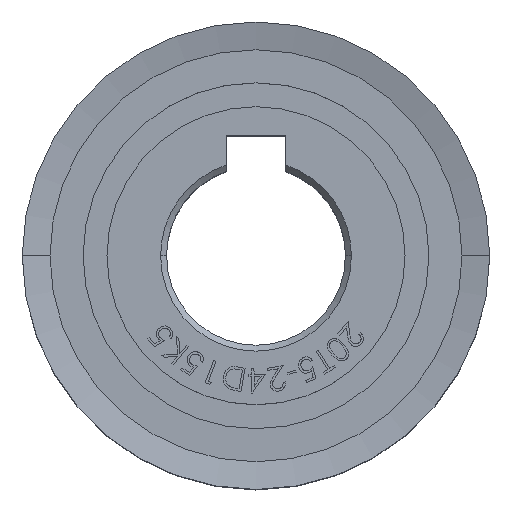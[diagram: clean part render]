
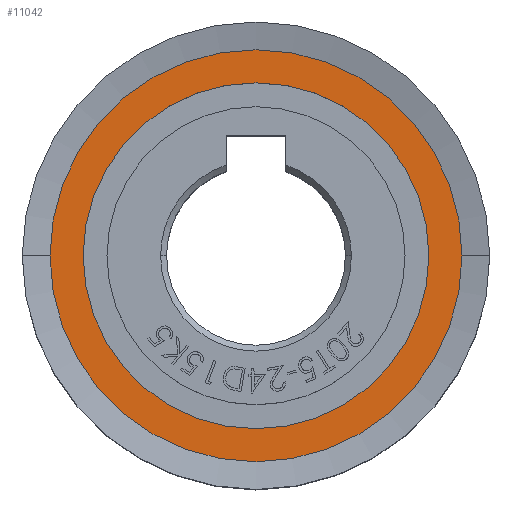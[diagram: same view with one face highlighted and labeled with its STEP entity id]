
A CAD part, top view. The second image highlights one B-rep face of the part: STEP entity #11042.
In plain terms, the highlighted planar face has unit normal (0, 0, 1).
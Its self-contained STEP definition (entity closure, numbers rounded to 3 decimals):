
#318 = EDGE_LOOP ( 'NONE', ( #5615, #4471 ) ) ;
#814 = DIRECTION ( 'NONE',  ( 1., 0., 0. ) ) ;
#1051 = CARTESIAN_POINT ( 'NONE',  ( 0., 0., -0.5 ) ) ;
#1483 = FACE_BOUND ( 'NONE', #318, .T. ) ;
#1940 = AXIS2_PLACEMENT_3D ( 'NONE', #10454, #2650, #12104 ) ;
#1995 = DIRECTION ( 'NONE',  ( 1., 0., 0. ) ) ;
#2495 = VERTEX_POINT ( 'NONE', #22950 ) ;
#2566 = DIRECTION ( 'NONE',  ( 0., 0., 1. ) ) ;
#2650 = DIRECTION ( 'NONE',  ( 0., 0., 1. ) ) ;
#3549 = CIRCLE ( 'NONE', #12532, 17.274 ) ;
#3607 = EDGE_LOOP ( 'NONE', ( #4931, #14555 ) ) ;
#3690 = VERTEX_POINT ( 'NONE', #4474 ) ;
#4088 = DIRECTION ( 'NONE',  ( 1., 0., 0. ) ) ;
#4321 = CIRCLE ( 'NONE', #20397, 17.274 ) ;
#4471 = ORIENTED_EDGE ( 'NONE', *, *, #10715, .F. ) ;
#4474 = CARTESIAN_POINT ( 'NONE',  ( -17.274, 0., -0.5 ) ) ;
#4931 = ORIENTED_EDGE ( 'NONE', *, *, #11479, .T. ) ;
#5613 = CARTESIAN_POINT ( 'NONE',  ( 0., 0., -0.5 ) ) ;
#5615 = ORIENTED_EDGE ( 'NONE', *, *, #5676, .F. ) ;
#5676 = EDGE_CURVE ( 'NONE', #2495, #17843, #10540, .T. ) ;
#5845 = CARTESIAN_POINT ( 'NONE',  ( 17.274, 0., -0.5 ) ) ;
#7714 = DIRECTION ( 'NONE',  ( 0., 0., 1. ) ) ;
#9358 = CARTESIAN_POINT ( 'NONE',  ( 0., 0., -0.5 ) ) ;
#9484 = DIRECTION ( 'NONE',  ( 0., 0., 1. ) ) ;
#10133 = FACE_OUTER_BOUND ( 'NONE', #3607, .T. ) ;
#10454 = CARTESIAN_POINT ( 'NONE',  ( 0., 0., -0.5 ) ) ;
#10486 = VERTEX_POINT ( 'NONE', #5845 ) ;
#10540 = CIRCLE ( 'NONE', #1940, 14.5 ) ;
#10548 = EDGE_CURVE ( 'NONE', #3690, #10486, #3549, .T. ) ;
#10598 = CARTESIAN_POINT ( 'NONE',  ( -14.5, 0., -0.5 ) ) ;
#10715 = EDGE_CURVE ( 'NONE', #17843, #2495, #20340, .T. ) ;
#10994 = AXIS2_PLACEMENT_3D ( 'NONE', #1051, #2566, #814 ) ;
#11042 = ADVANCED_FACE ( 'NONE', ( #1483, #10133 ), #12361, .F. ) ;
#11370 = AXIS2_PLACEMENT_3D ( 'NONE', #17741, #19376, #17282 ) ;
#11479 = EDGE_CURVE ( 'NONE', #10486, #3690, #4321, .T. ) ;
#12104 = DIRECTION ( 'NONE',  ( 1., 0., 0. ) ) ;
#12361 = PLANE ( 'NONE',  #11370 ) ;
#12532 = AXIS2_PLACEMENT_3D ( 'NONE', #9358, #7714, #4088 ) ;
#14555 = ORIENTED_EDGE ( 'NONE', *, *, #10548, .T. ) ;
#17282 = DIRECTION ( 'NONE',  ( -1., 0., 0. ) ) ;
#17741 = CARTESIAN_POINT ( 'NONE',  ( 0., 17.274, -0.5 ) ) ;
#17843 = VERTEX_POINT ( 'NONE', #10598 ) ;
#19376 = DIRECTION ( 'NONE',  ( 0., 0., -1. ) ) ;
#20340 = CIRCLE ( 'NONE', #10994, 14.5 ) ;
#20397 = AXIS2_PLACEMENT_3D ( 'NONE', #5613, #9484, #1995 ) ;
#22950 = CARTESIAN_POINT ( 'NONE',  ( 14.5, 0., -0.5 ) ) ;
